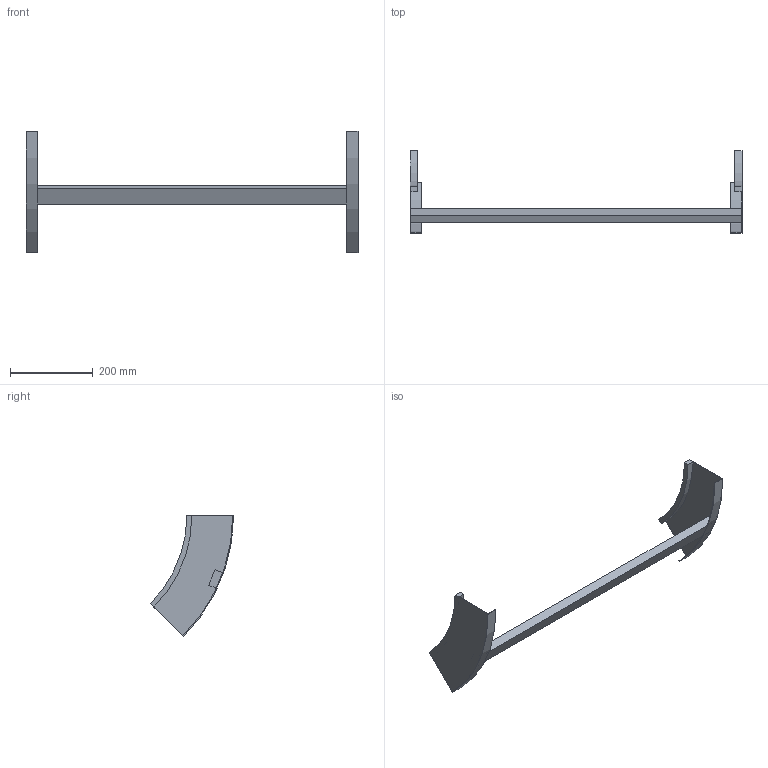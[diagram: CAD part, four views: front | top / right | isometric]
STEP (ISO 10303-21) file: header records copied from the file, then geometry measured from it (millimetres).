
FILE_DESCRIPTION (( 'STEP AP214' ), '1' );
FILE_NAME ('B2X31B3J800XX.step', '2025-03-20T10:08:04', ( '' ), ( '' ), 'SwSTEP 2.0', 'SolidWorks 2023', '' );
FILE_SCHEMA (( 'AUTOMOTIVE_DESIGN' ));
Length unit declared in the file: millimetre
Products named in the file (3): B2_LONGH.SALITA_45°_H112.5_R300; TRAVERSINO_800; B2X31B3J800XX
Assembly tree (3 placements, depth 2):
  B2X31B3J800XX
    B2_LONGH.SALITA_45°_H112.5_R300  x2
    TRAVERSINO_800
Bounding box: 800 x 200.37 x 291.68 mm (x, y, z)
Volume: 895275.7 mm3; surface area: 275651.9 mm2
Topology: 3 solids, 3 shells, 26 faces, 60 edges, 40 vertices
Faces by surface type: plane 18, cylinder 8
Entity records: 544 total; most frequent: DIRECTION 88, CARTESIAN_POINT 82, ORIENTED_EDGE 72, EDGE_CURVE 36, AXIS2_PLACEMENT_3D 30, VECTOR 28, LINE 28, VERTEX_POINT 24
